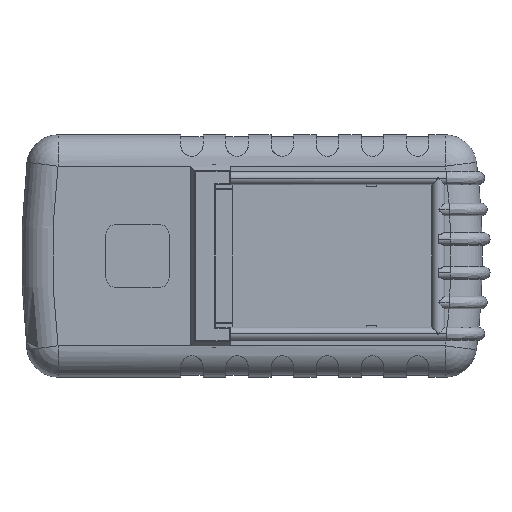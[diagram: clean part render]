
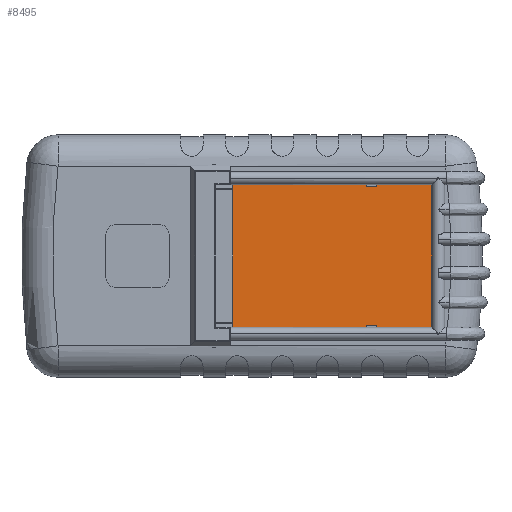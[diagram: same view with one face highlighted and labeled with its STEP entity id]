
A CAD part, front view. The second image highlights one B-rep face of the part: STEP entity #8495.
In plain terms, the highlighted planar face has unit normal (0, -1, 0).
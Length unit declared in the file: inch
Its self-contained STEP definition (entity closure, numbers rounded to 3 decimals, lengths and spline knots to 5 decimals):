
#60 = CARTESIAN_POINT ( 'NONE',  ( 2.35422, 0.08, 0. ) ) ;
#212 = CARTESIAN_POINT ( 'NONE',  ( -0.35584, 0.08, 1.3435 ) ) ;
#414 = CARTESIAN_POINT ( 'NONE',  ( 2.35422, 0.08, 1.3435 ) ) ;
#1702 = EDGE_CURVE ( 'NONE', #12181, #27749, #7331, .T. ) ;
#2024 = ORIENTED_EDGE ( 'NONE', *, *, #1702, .T. ) ;
#2877 = VECTOR ( 'NONE', #22562, 39.37008 ) ;
#3431 = DIRECTION ( 'NONE',  ( 0., 0., -1. ) ) ;
#3454 = VECTOR ( 'NONE', #13068, 39.37008 ) ;
#4057 = ORIENTED_EDGE ( 'NONE', *, *, #33108, .T. ) ;
#4204 = DIRECTION ( 'NONE',  ( 0., 0., -1. ) ) ;
#4531 = EDGE_CURVE ( 'NONE', #18938, #19754, #11863, .T. ) ;
#6403 = LINE ( 'NONE', #28841, #30913 ) ;
#7331 = LINE ( 'NONE', #8782, #41677 ) ;
#7544 = CARTESIAN_POINT ( 'NONE',  ( 3.39416, 0.08, -1.3435 ) ) ;
#8495 = ADVANCED_FACE ( 'NONE', ( #37504 ), #40705, .T. ) ;
#8734 = ORIENTED_EDGE ( 'NONE', *, *, #38574, .T. ) ;
#8782 = CARTESIAN_POINT ( 'NONE',  ( -0.35584, 0.08, -1.3435 ) ) ;
#9058 = ORIENTED_EDGE ( 'NONE', *, *, #21142, .T. ) ;
#9522 = ORIENTED_EDGE ( 'NONE', *, *, #17769, .F. ) ;
#10096 = CARTESIAN_POINT ( 'NONE',  ( -0.35584, 0.08, -1.3435 ) ) ;
#10534 = CARTESIAN_POINT ( 'NONE',  ( 2.15422, 0.08, 1.31062 ) ) ;
#10573 = LINE ( 'NONE', #33929, #36117 ) ;
#11210 = ORIENTED_EDGE ( 'NONE', *, *, #4531, .T. ) ;
#11790 = EDGE_CURVE ( 'NONE', #42366, #40239, #22080, .T. ) ;
#11863 = LINE ( 'NONE', #22072, #26451 ) ;
#12181 = VERTEX_POINT ( 'NONE', #20773 ) ;
#12291 = VECTOR ( 'NONE', #3431, 39.37008 ) ;
#12537 = EDGE_CURVE ( 'NONE', #40239, #13781, #10573, .T. ) ;
#13068 = DIRECTION ( 'NONE',  ( -1., 0., 0. ) ) ;
#13107 = LINE ( 'NONE', #42099, #20902 ) ;
#13781 = VERTEX_POINT ( 'NONE', #40806 ) ;
#14944 = LINE ( 'NONE', #32261, #31671 ) ;
#15007 = DIRECTION ( 'NONE',  ( 0., 0., 1. ) ) ;
#15256 = ORIENTED_EDGE ( 'NONE', *, *, #28617, .T. ) ;
#15920 = EDGE_CURVE ( 'NONE', #19754, #35615, #38895, .T. ) ;
#15930 = VERTEX_POINT ( 'NONE', #212 ) ;
#16768 = DIRECTION ( 'NONE',  ( 1., 0., 0. ) ) ;
#17769 = EDGE_CURVE ( 'NONE', #13781, #27749, #6403, .T. ) ;
#18099 = ORIENTED_EDGE ( 'NONE', *, *, #31757, .T. ) ;
#18322 = EDGE_LOOP ( 'NONE', ( #8734, #4057, #18099, #22267, #2024, #9522, #40233, #42856, #15256, #9058, #11210, #21621 ) ) ;
#18493 = CARTESIAN_POINT ( 'NONE',  ( 3.39416, 0.08, -1.3435 ) ) ;
#18938 = VERTEX_POINT ( 'NONE', #25910 ) ;
#18959 = DIRECTION ( 'NONE',  ( -1., 0., 0. ) ) ;
#19220 = CARTESIAN_POINT ( 'NONE',  ( 2.15422, 0.08, 0. ) ) ;
#19754 = VERTEX_POINT ( 'NONE', #414 ) ;
#19896 = VECTOR ( 'NONE', #35150, 39.37008 ) ;
#20078 = DIRECTION ( 'NONE',  ( 0., 0., -1. ) ) ;
#20756 = CARTESIAN_POINT ( 'NONE',  ( 0., 0.08, 0. ) ) ;
#20773 = CARTESIAN_POINT ( 'NONE',  ( -0.35584, 0.08, -1.3435 ) ) ;
#20902 = VECTOR ( 'NONE', #18959, 39.37008 ) ;
#21142 = EDGE_CURVE ( 'NONE', #40287, #18938, #37650, .T. ) ;
#21621 = ORIENTED_EDGE ( 'NONE', *, *, #15920, .T. ) ;
#21638 = CARTESIAN_POINT ( 'NONE',  ( 2.15422, 0.08, -1.3435 ) ) ;
#22072 = CARTESIAN_POINT ( 'NONE',  ( 3.39416, 0.08, 1.3435 ) ) ;
#22080 = LINE ( 'NONE', #31661, #30986 ) ;
#22267 = ORIENTED_EDGE ( 'NONE', *, *, #34577, .T. ) ;
#22562 = DIRECTION ( 'NONE',  ( 0., 0., 1. ) ) ;
#24116 = DIRECTION ( 'NONE',  ( 0., -1., 0. ) ) ;
#25910 = CARTESIAN_POINT ( 'NONE',  ( 3.39416, 0.08, 1.3435 ) ) ;
#26451 = VECTOR ( 'NONE', #38701, 39.37008 ) ;
#27327 = LINE ( 'NONE', #19220, #2877 ) ;
#27749 = VERTEX_POINT ( 'NONE', #21638 ) ;
#27806 = CARTESIAN_POINT ( 'NONE',  ( 2.15422, 0.08, 1.3435 ) ) ;
#27896 = LINE ( 'NONE', #33090, #3454 ) ;
#28617 = EDGE_CURVE ( 'NONE', #42366, #40287, #29721, .T. ) ;
#28804 = VERTEX_POINT ( 'NONE', #27806 ) ;
#28841 = CARTESIAN_POINT ( 'NONE',  ( 2.15422, 0.08, 0. ) ) ;
#29721 = LINE ( 'NONE', #10096, #30801 ) ;
#30801 = VECTOR ( 'NONE', #16768, 39.37008 ) ;
#30913 = VECTOR ( 'NONE', #35570, 39.37008 ) ;
#30986 = VECTOR ( 'NONE', #15007, 39.37008 ) ;
#31661 = CARTESIAN_POINT ( 'NONE',  ( 2.35422, 0.08, 0. ) ) ;
#31671 = VECTOR ( 'NONE', #20078, 39.37008 ) ;
#31757 = EDGE_CURVE ( 'NONE', #28804, #15930, #27896, .T. ) ;
#32261 = CARTESIAN_POINT ( 'NONE',  ( -0.35584, 0.08, 1.3435 ) ) ;
#33090 = CARTESIAN_POINT ( 'NONE',  ( 3.39416, 0.08, 1.3435 ) ) ;
#33108 = EDGE_CURVE ( 'NONE', #36693, #28804, #27327, .T. ) ;
#33929 = CARTESIAN_POINT ( 'NONE',  ( 0., 0.08, -1.31062 ) ) ;
#34577 = EDGE_CURVE ( 'NONE', #15930, #12181, #14944, .T. ) ;
#35150 = DIRECTION ( 'NONE',  ( 0., 0., 1. ) ) ;
#35305 = DIRECTION ( 'NONE',  ( 1., 0., 0. ) ) ;
#35570 = DIRECTION ( 'NONE',  ( 0., 0., -1. ) ) ;
#35615 = VERTEX_POINT ( 'NONE', #36421 ) ;
#36117 = VECTOR ( 'NONE', #37251, 39.37008 ) ;
#36421 = CARTESIAN_POINT ( 'NONE',  ( 2.35422, 0.08, 1.31062 ) ) ;
#36693 = VERTEX_POINT ( 'NONE', #10534 ) ;
#37251 = DIRECTION ( 'NONE',  ( -1., 0., 0. ) ) ;
#37256 = CARTESIAN_POINT ( 'NONE',  ( 2.35422, 0.08, -1.31062 ) ) ;
#37504 = FACE_OUTER_BOUND ( 'NONE', #18322, .T. ) ;
#37650 = LINE ( 'NONE', #18493, #19896 ) ;
#38574 = EDGE_CURVE ( 'NONE', #35615, #36693, #13107, .T. ) ;
#38701 = DIRECTION ( 'NONE',  ( -1., 0., 0. ) ) ;
#38895 = LINE ( 'NONE', #60, #12291 ) ;
#40233 = ORIENTED_EDGE ( 'NONE', *, *, #12537, .F. ) ;
#40239 = VERTEX_POINT ( 'NONE', #37256 ) ;
#40287 = VERTEX_POINT ( 'NONE', #7544 ) ;
#40705 = PLANE ( 'NONE',  #41204 ) ;
#40806 = CARTESIAN_POINT ( 'NONE',  ( 2.15422, 0.08, -1.31062 ) ) ;
#41204 = AXIS2_PLACEMENT_3D ( 'NONE', #20756, #24116, #4204 ) ;
#41677 = VECTOR ( 'NONE', #35305, 39.37008 ) ;
#42099 = CARTESIAN_POINT ( 'NONE',  ( 0., 0.08, 1.31062 ) ) ;
#42366 = VERTEX_POINT ( 'NONE', #42492 ) ;
#42492 = CARTESIAN_POINT ( 'NONE',  ( 2.35422, 0.08, -1.3435 ) ) ;
#42856 = ORIENTED_EDGE ( 'NONE', *, *, #11790, .F. ) ;
